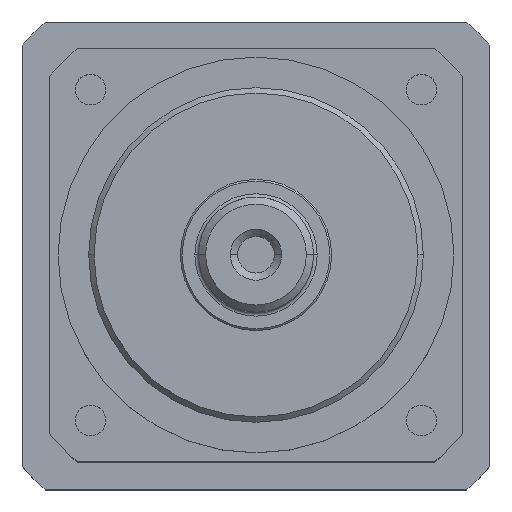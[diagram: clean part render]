
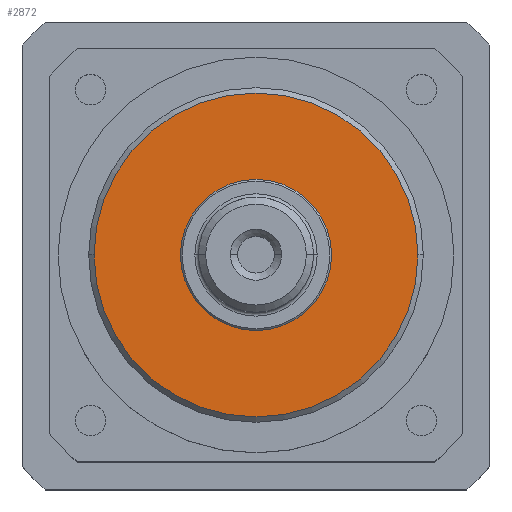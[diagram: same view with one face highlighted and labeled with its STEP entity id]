
A CAD part, top view. The second image highlights one B-rep face of the part: STEP entity #2872.
In plain terms, the highlighted planar face has unit normal (0, 0, 1).
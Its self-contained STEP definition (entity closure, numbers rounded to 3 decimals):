
#58 = EDGE_CURVE ( 'NONE', #1276, #2739, #3217, .T. ) ;
#429 = ORIENTED_EDGE ( 'NONE', *, *, #452, .F. ) ;
#452 = EDGE_CURVE ( 'NONE', #3038, #2098, #3685, .T. ) ;
#460 = FACE_OUTER_BOUND ( 'NONE', #4795, .T. ) ;
#639 = ORIENTED_EDGE ( 'NONE', *, *, #4801, .T. ) ;
#812 = CARTESIAN_POINT ( 'NONE',  ( 0., 0., 23.5 ) ) ;
#1256 = CARTESIAN_POINT ( 'NONE',  ( -45., 0., 23.5 ) ) ;
#1276 = VERTEX_POINT ( 'NONE', #2063 ) ;
#1338 = DIRECTION ( 'NONE',  ( 1., 0., 0. ) ) ;
#1520 = CARTESIAN_POINT ( 'NONE',  ( -21., 0., 23.5 ) ) ;
#1600 = CARTESIAN_POINT ( 'NONE',  ( 21., 0., 23.5 ) ) ;
#1622 = EDGE_CURVE ( 'NONE', #2098, #3038, #6403, .T. ) ;
#2063 = CARTESIAN_POINT ( 'NONE',  ( 45., 0., 23.5 ) ) ;
#2098 = VERTEX_POINT ( 'NONE', #1520 ) ;
#2471 = AXIS2_PLACEMENT_3D ( 'NONE', #4977, #6714, #6743 ) ;
#2739 = VERTEX_POINT ( 'NONE', #1256 ) ;
#2872 = ADVANCED_FACE ( 'NONE', ( #460, #6472 ), #4940, .T. ) ;
#2986 = CARTESIAN_POINT ( 'NONE',  ( 0., 0., 23.5 ) ) ;
#3038 = VERTEX_POINT ( 'NONE', #1600 ) ;
#3039 = DIRECTION ( 'NONE',  ( 0., 0., 1. ) ) ;
#3217 = CIRCLE ( 'NONE', #6582, 45. ) ;
#3501 = DIRECTION ( 'NONE',  ( 1., 0., 0. ) ) ;
#3685 = CIRCLE ( 'NONE', #5481, 21. ) ;
#4639 = CIRCLE ( 'NONE', #2471, 45. ) ;
#4795 = EDGE_LOOP ( 'NONE', ( #5187, #639 ) ) ;
#4801 = EDGE_CURVE ( 'NONE', #2739, #1276, #4639, .T. ) ;
#4940 = PLANE ( 'NONE',  #7012 ) ;
#4947 = DIRECTION ( 'NONE',  ( 0., 0., 1. ) ) ;
#4977 = CARTESIAN_POINT ( 'NONE',  ( 0., 0., 23.5 ) ) ;
#5020 = DIRECTION ( 'NONE',  ( 0., 0., 1. ) ) ;
#5187 = ORIENTED_EDGE ( 'NONE', *, *, #58, .T. ) ;
#5481 = AXIS2_PLACEMENT_3D ( 'NONE', #2986, #7080, #3501 ) ;
#6091 = DIRECTION ( 'NONE',  ( 1., 0., 0. ) ) ;
#6350 = ORIENTED_EDGE ( 'NONE', *, *, #1622, .F. ) ;
#6403 = CIRCLE ( 'NONE', #6811, 21. ) ;
#6472 = FACE_BOUND ( 'NONE', #6976, .T. ) ;
#6582 = AXIS2_PLACEMENT_3D ( 'NONE', #7382, #4947, #7310 ) ;
#6714 = DIRECTION ( 'NONE',  ( 0., 0., 1. ) ) ;
#6743 = DIRECTION ( 'NONE',  ( 1., 0., 0. ) ) ;
#6811 = AXIS2_PLACEMENT_3D ( 'NONE', #7295, #3039, #1338 ) ;
#6976 = EDGE_LOOP ( 'NONE', ( #6350, #429 ) ) ;
#7012 = AXIS2_PLACEMENT_3D ( 'NONE', #812, #5020, #6091 ) ;
#7080 = DIRECTION ( 'NONE',  ( 0., 0., 1. ) ) ;
#7295 = CARTESIAN_POINT ( 'NONE',  ( 0., 0., 23.5 ) ) ;
#7310 = DIRECTION ( 'NONE',  ( 1., 0., 0. ) ) ;
#7382 = CARTESIAN_POINT ( 'NONE',  ( 0., 0., 23.5 ) ) ;
